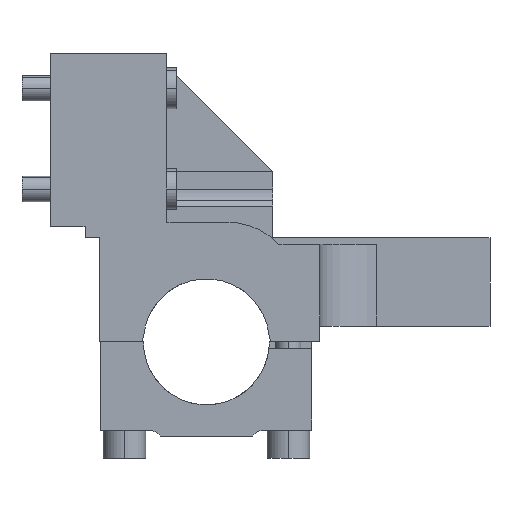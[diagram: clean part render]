
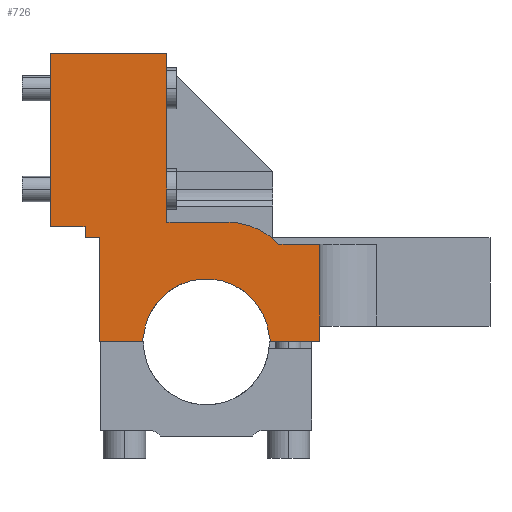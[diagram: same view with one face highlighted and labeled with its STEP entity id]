
A CAD part, left-side view. The second image highlights one B-rep face of the part: STEP entity #726.
In plain terms, the highlighted planar face has unit normal (-1, 0, 0).
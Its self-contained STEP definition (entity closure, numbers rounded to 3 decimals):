
#726=ADVANCED_FACE('Pad.1',(#1751),#1752,.T.);
#1751=FACE_OUTER_BOUND('',#3175,.T.);
#1752=PLANE('',#3176);
#3175=EDGE_LOOP('',(#5028,#5029,#5030,#5031,#5032,#5033,#5034,#5035,#5036,#5037,#5038,#5039,#5040,#5041,#5042,#5043,#5044));
#3176=AXIS2_PLACEMENT_3D('',#5045,#5046,#5047);
#5028=ORIENTED_EDGE('',*,*,#8673,.T.);
#5029=ORIENTED_EDGE('',*,*,#8674,.T.);
#5030=ORIENTED_EDGE('',*,*,#8675,.T.);
#5031=ORIENTED_EDGE('',*,*,#8676,.T.);
#5032=ORIENTED_EDGE('',*,*,#8677,.T.);
#5033=ORIENTED_EDGE('',*,*,#8640,.T.);
#5034=ORIENTED_EDGE('',*,*,#8609,.F.);
#5035=ORIENTED_EDGE('',*,*,#8611,.T.);
#5036=ORIENTED_EDGE('',*,*,#8615,.T.);
#5037=ORIENTED_EDGE('',*,*,#8618,.T.);
#5038=ORIENTED_EDGE('',*,*,#8632,.T.);
#5039=ORIENTED_EDGE('',*,*,#8678,.T.);
#5040=ORIENTED_EDGE('',*,*,#8679,.T.);
#5041=ORIENTED_EDGE('',*,*,#8680,.F.);
#5042=ORIENTED_EDGE('',*,*,#8681,.F.);
#5043=ORIENTED_EDGE('',*,*,#8682,.F.);
#5044=ORIENTED_EDGE('',*,*,#8683,.F.);
#5045=CARTESIAN_POINT('',(-28.0,0.0,0.0));
#5046=DIRECTION('',(-1.0,0.0,0.0));
#5047=DIRECTION('',(0.0,-1.0,0.0));
#8609=EDGE_CURVE('',#10409,#10355,#10411,.T.);
#8611=EDGE_CURVE('',#10409,#10413,#10414,.F.);
#8615=EDGE_CURVE('',#10413,#10417,#10419,.T.);
#8618=EDGE_CURVE('',#10417,#10421,#10423,.T.);
#8632=EDGE_CURVE('',#10421,#10445,#10447,.F.);
#8640=EDGE_CURVE('',#10458,#10355,#10459,.F.);
#8673=EDGE_CURVE('',#10497,#10498,#10499,.F.);
#8674=EDGE_CURVE('',#10498,#10500,#10501,.T.);
#8675=EDGE_CURVE('',#10500,#10502,#10503,.F.);
#8676=EDGE_CURVE('',#10502,#10504,#10505,.F.);
#8677=EDGE_CURVE('',#10504,#10458,#10506,.F.);
#8678=EDGE_CURVE('',#10445,#10507,#10508,.T.);
#8679=EDGE_CURVE('',#10507,#10509,#10510,.F.);
#8680=EDGE_CURVE('',#10511,#10509,#10512,.T.);
#8681=EDGE_CURVE('',#10513,#10511,#10514,.F.);
#8682=EDGE_CURVE('',#10515,#10513,#10516,.T.);
#8683=EDGE_CURVE('',#10497,#10515,#10517,.T.);
#10355=VERTEX_POINT('',#13302);
#10409=VERTEX_POINT('',#13370);
#10411=LINE('',#13372,#13373);
#10413=VERTEX_POINT('',#13375);
#10414=LINE('',#13376,#13377);
#10417=VERTEX_POINT('',#13381);
#10419=CIRCLE('',#13384,23.0);
#10421=VERTEX_POINT('',#13386);
#10423=LINE('',#13389,#13390);
#10445=VERTEX_POINT('',#13421);
#10447=LINE('',#13424,#13425);
#10458=VERTEX_POINT('',#13437);
#10459=LINE('',#13438,#13439);
#10497=VERTEX_POINT('',#13494);
#10498=VERTEX_POINT('',#13495);
#10499=LINE('',#13496,#13497);
#10500=VERTEX_POINT('',#13498);
#10501=LINE('',#13499,#13500);
#10502=VERTEX_POINT('',#13501);
#10503=CIRCLE('',#13502,20.0);
#10504=VERTEX_POINT('',#13503);
#10505=LINE('',#13504,#13505);
#10506=LINE('',#13506,#13507);
#10507=VERTEX_POINT('',#13508);
#10508=LINE('',#13509,#13510);
#10509=VERTEX_POINT('',#13511);
#10510=LINE('',#13512,#13513);
#10511=VERTEX_POINT('',#13514);
#10512=LINE('',#13515,#13516);
#10513=VERTEX_POINT('',#13517);
#10514=LINE('',#13518,#13519);
#10515=VERTEX_POINT('',#13520);
#10516=LINE('',#13521,#13522);
#10517=LINE('',#13523,#13524);
#13302=CARTESIAN_POINT('',(-28.0,-36.0,5.0));
#13370=CARTESIAN_POINT('',(-28.0,-36.0,31.0));
#13372=CARTESIAN_POINT('',(-28.0,-36.0,18.0));
#13373=VECTOR('',#16846,1.0);
#13375=CARTESIAN_POINT('',(-28.0,-23.023,31.0));
#13376=CARTESIAN_POINT('',(-28.0,-29.511,31.0));
#13377=VECTOR('',#16847,1.0);
#13381=CARTESIAN_POINT('',(-28.0,-6.5,38.));
#13384=AXIS2_PLACEMENT_3D('',#16850,#16851,#16852);
#13386=CARTESIAN_POINT('',(-28.0,12.5,38.0));
#13389=CARTESIAN_POINT('',(-28.0,3.,38.0));
#13390=VECTOR('',#16854,1.0);
#13421=CARTESIAN_POINT('',(-28.0,12.5,91.5));
#13424=CARTESIAN_POINT('',(-28.0,12.5,64.75));
#13425=VECTOR('',#16871,1.0);
#13437=CARTESIAN_POINT('',(-28.0,-36.0,0.0));
#13438=CARTESIAN_POINT('',(-28.0,-36.0,2.5));
#13439=VECTOR('',#16888,1.0);
#13494=CARTESIAN_POINT('',(-28.0,34.0,0.0));
#13495=CARTESIAN_POINT('',(-28.0,20.436,0.0));
#13496=CARTESIAN_POINT('',(-28.0,27.218,0.0));
#13497=VECTOR('',#16915,1.0);
#13498=CARTESIAN_POINT('',(-28.0,19.9,2.0));
#13499=CARTESIAN_POINT('',(-28.0,20.168,1.0));
#13500=VECTOR('',#16916,1.0);
#13501=CARTESIAN_POINT('',(-28.0,-19.9,2.));
#13502=AXIS2_PLACEMENT_3D('',#16917,#16918,#16919);
#13503=CARTESIAN_POINT('',(-28.0,-20.436,0.));
#13504=CARTESIAN_POINT('',(-28.0,-20.168,1.));
#13505=VECTOR('',#16920,1.0);
#13506=CARTESIAN_POINT('',(-28.0,-28.218,0.0));
#13507=VECTOR('',#16921,1.0);
#13508=CARTESIAN_POINT('',(-28.0,49.5,91.5));
#13509=CARTESIAN_POINT('',(-28.0,31.0,91.5));
#13510=VECTOR('',#16922,1.0);
#13511=CARTESIAN_POINT('',(-28.0,49.5,36.5));
#13512=CARTESIAN_POINT('',(-28.0,49.5,64.0));
#13513=VECTOR('',#16923,1.0);
#13514=CARTESIAN_POINT('',(-28.0,38.5,36.5));
#13515=CARTESIAN_POINT('',(-28.0,44.0,36.5));
#13516=VECTOR('',#16924,1.0);
#13517=CARTESIAN_POINT('',(-28.0,38.5,33.0));
#13518=CARTESIAN_POINT('',(-28.0,38.5,34.75));
#13519=VECTOR('',#16925,1.0);
#13520=CARTESIAN_POINT('',(-28.0,34.0,33.0));
#13521=CARTESIAN_POINT('',(-28.0,36.25,33.0));
#13522=VECTOR('',#16926,1.0);
#13523=CARTESIAN_POINT('',(-28.0,34.0,16.5));
#13524=VECTOR('',#16927,1.0);
#16846=DIRECTION('',(0.0,0.,-1.0));
#16847=DIRECTION('',(0.0,-1.0,0.0));
#16850=CARTESIAN_POINT('',(-28.0,-6.5,15.));
#16851=DIRECTION('',(-1.0,0.0,0.0));
#16852=DIRECTION('',(0.0,-1.0,0.0));
#16854=DIRECTION('',(0.0,1.0,0.0));
#16871=DIRECTION('',(0.0,0.0,-1.0));
#16888=DIRECTION('',(0.0,0.0,-1.0));
#16915=DIRECTION('',(0.0,1.0,0.0));
#16916=DIRECTION('',(0.0,-0.259,0.966));
#16917=CARTESIAN_POINT('',(-28.0,0.0,0.0));
#16918=DIRECTION('',(-1.0,0.0,0.0));
#16919=DIRECTION('',(0.0,-1.0,0.0));
#16920=DIRECTION('',(0.0,0.259,0.966));
#16921=DIRECTION('',(0.0,1.0,0.0));
#16922=DIRECTION('',(0.0,1.0,0.0));
#16923=DIRECTION('',(0.0,0.0,1.0));
#16924=DIRECTION('',(0.0,1.0,0.0));
#16925=DIRECTION('',(0.0,0.0,-1.0));
#16926=DIRECTION('',(0.0,1.0,0.0));
#16927=DIRECTION('',(0.0,0.0,1.0));
